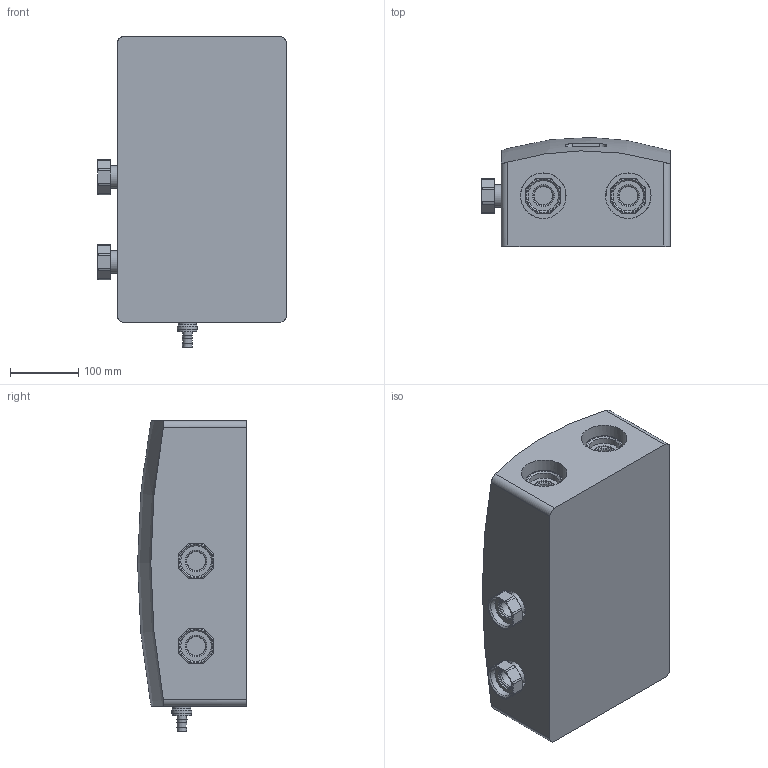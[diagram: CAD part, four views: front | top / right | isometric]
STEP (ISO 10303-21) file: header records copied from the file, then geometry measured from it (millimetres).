
FILE_DESCRIPTION(/* description */ (''),/* implementation_level */ '2;1');
FILE_NAME(/* name */ '\\dataserver\data\Meibes\Inventor\Meiflow S BG\66393_21_meiflow_s_bg.stp',/* time_stamp */ '2023-10-12T14:14:27+02:00',/* author */ ('kasius'),/* organization */ (''),/* preprocessor_version */ 'ST-DEVELOPER v17',/* originating_system */ 'Autodesk Inventor 2018',/* authorisation */ '');
FILE_SCHEMA (('AUTOMOTIVE_DESIGN { 1 0 10303 214 3 1 1 }'));
Length unit declared in the file: millimetre
Products named in the file (1): 66393-21_meiflow_s_bg
Bounding box: 277.85 x 159.92 x 457.02 mm (x, y, z)
Volume: 14885924.4 mm3; surface area: 494472.8 mm2
Topology: 6 solids, 6 shells, 227 faces, 570 edges, 374 vertices
Faces by surface type: cone 83, plane 74, cylinder 69, torus 1
Full cylindrical faces by diameter (mm): 9.5 x1, 16.5 x1, 26.44 x1, 27.2 x4, 28 x1, 29.97 x1, 32 x4, 33.7 x4, 42.3 x4, 44.8 x2, 44.85 x2, 45 x2, 67 x2
Entity records: 7175 total; most frequent: CARTESIAN_POINT 1586, DIRECTION 1170, ORIENTED_EDGE 1140, EDGE_CURVE 570, AXIS2_PLACEMENT_3D 514, VERTEX_POINT 374, CIRCLE 286, EDGE_LOOP 258
